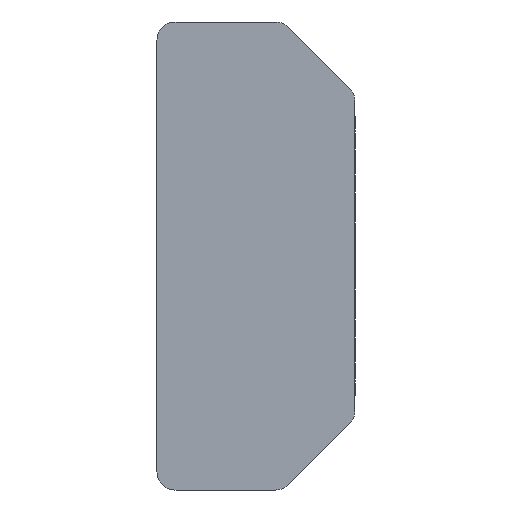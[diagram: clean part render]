
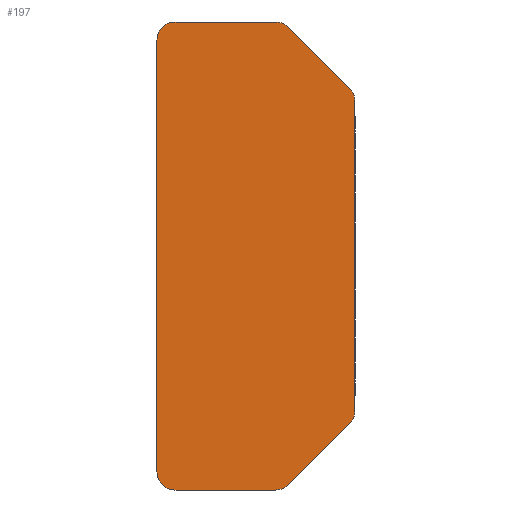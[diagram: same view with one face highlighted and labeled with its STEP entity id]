
A CAD part, left-side view. The second image highlights one B-rep face of the part: STEP entity #197.
In plain terms, the highlighted planar face has unit normal (-1, 0, 0).
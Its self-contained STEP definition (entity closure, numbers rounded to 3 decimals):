
#3 = DIRECTION ( 'NONE',  ( 0., 0., 1. ) ) ;
#14 = CARTESIAN_POINT ( 'NONE',  ( 0., 1.854, -12.854 ) ) ;
#20 = ORIENTED_EDGE ( 'NONE', *, *, #111, .T. ) ;
#24 = CIRCLE ( 'NONE', #54, 0.5 ) ;
#28 = VERTEX_POINT ( 'NONE', #257 ) ;
#37 = CIRCLE ( 'NONE', #534, 0.5 ) ;
#44 = DIRECTION ( 'NONE',  ( 0., 0., -1. ) ) ;
#46 = DIRECTION ( 'NONE',  ( 0., 0., -1. ) ) ;
#47 = VECTOR ( 'NONE', #538, 1000. ) ;
#51 = CARTESIAN_POINT ( 'NONE',  ( 0., 5.5, 0. ) ) ;
#53 = CARTESIAN_POINT ( 'NONE',  ( 0., 2., -13. ) ) ;
#54 = AXIS2_PLACEMENT_3D ( 'NONE', #376, #71, #292 ) ;
#57 = DIRECTION ( 'NONE',  ( 0., -1., 0. ) ) ;
#62 = AXIS2_PLACEMENT_3D ( 'NONE', #442, #404, #46 ) ;
#70 = CARTESIAN_POINT ( 'NONE',  ( 0., 2.207, -0.5 ) ) ;
#71 = DIRECTION ( 'NONE',  ( -1., 0., 0. ) ) ;
#72 = ORIENTED_EDGE ( 'NONE', *, *, #552, .T. ) ;
#88 = DIRECTION ( 'NONE',  ( 0., 0., -1. ) ) ;
#98 = CARTESIAN_POINT ( 'NONE',  ( 0., 0., -10.793 ) ) ;
#100 = VERTEX_POINT ( 'NONE', #429 ) ;
#101 = CARTESIAN_POINT ( 'NONE',  ( 0., 5., -13. ) ) ;
#106 = DIRECTION ( 'NONE',  ( 0., 0., -1. ) ) ;
#110 = VERTEX_POINT ( 'NONE', #340 ) ;
#111 = EDGE_CURVE ( 'NONE', #110, #461, #24, .T. ) ;
#114 = ORIENTED_EDGE ( 'NONE', *, *, #557, .T. ) ;
#128 = FACE_OUTER_BOUND ( 'NONE', #302, .T. ) ;
#131 = LINE ( 'NONE', #528, #132 ) ;
#132 = VECTOR ( 'NONE', #159, 1000. ) ;
#140 = VERTEX_POINT ( 'NONE', #523 ) ;
#142 = ORIENTED_EDGE ( 'NONE', *, *, #213, .T. ) ;
#147 = VERTEX_POINT ( 'NONE', #249 ) ;
#159 = DIRECTION ( 'NONE',  ( 0., 0.707, 0.707 ) ) ;
#175 = CIRCLE ( 'NONE', #62, 0.5 ) ;
#176 = EDGE_CURVE ( 'NONE', #457, #565, #406, .T. ) ;
#186 = DIRECTION ( 'NONE',  ( 0., -1., 0. ) ) ;
#196 = VECTOR ( 'NONE', #186, 1000. ) ;
#197 = ADVANCED_FACE ( 'NONE', ( #128 ), #495, .F. ) ;
#213 = EDGE_CURVE ( 'NONE', #478, #430, #352, .T. ) ;
#216 = CARTESIAN_POINT ( 'NONE',  ( 0., 0.5, -10.793 ) ) ;
#219 = EDGE_CURVE ( 'NONE', #430, #110, #483, .T. ) ;
#225 = CARTESIAN_POINT ( 'NONE',  ( 0., 5.5, -13. ) ) ;
#227 = DIRECTION ( 'NONE',  ( 0., -0.707, 0.707 ) ) ;
#229 = CARTESIAN_POINT ( 'NONE',  ( 0., 5.5, -12.5 ) ) ;
#230 = LINE ( 'NONE', #51, #342 ) ;
#237 = ORIENTED_EDGE ( 'NONE', *, *, #252, .T. ) ;
#241 = EDGE_CURVE ( 'NONE', #536, #28, #175, .T. ) ;
#249 = CARTESIAN_POINT ( 'NONE',  ( 0., 1.854, -0.146 ) ) ;
#252 = EDGE_CURVE ( 'NONE', #461, #147, #131, .T. ) ;
#257 = CARTESIAN_POINT ( 'NONE',  ( 0., 5.5, -0.5 ) ) ;
#267 = LINE ( 'NONE', #53, #572 ) ;
#280 = CARTESIAN_POINT ( 'NONE',  ( 0., 2.207, -12.5 ) ) ;
#286 = CARTESIAN_POINT ( 'NONE',  ( 0., 5., 0. ) ) ;
#292 = DIRECTION ( 'NONE',  ( 0., 0., -1. ) ) ;
#294 = DIRECTION ( 'NONE',  ( -1., 0., 0. ) ) ;
#296 = ORIENTED_EDGE ( 'NONE', *, *, #176, .T. ) ;
#301 = CARTESIAN_POINT ( 'NONE',  ( 0., 5., -12.5 ) ) ;
#302 = EDGE_LOOP ( 'NONE', ( #237, #114, #481, #423, #450, #296, #341, #72, #334, #142, #468, #20 ) ) ;
#313 = DIRECTION ( 'NONE',  ( -1., 0., 0. ) ) ;
#325 = AXIS2_PLACEMENT_3D ( 'NONE', #354, #393, #88 ) ;
#332 = EDGE_CURVE ( 'NONE', #565, #140, #459, .T. ) ;
#334 = ORIENTED_EDGE ( 'NONE', *, *, #455, .T. ) ;
#335 = DIRECTION ( 'NONE',  ( 0., 0., -1. ) ) ;
#340 = CARTESIAN_POINT ( 'NONE',  ( 0., 0., -2.207 ) ) ;
#341 = ORIENTED_EDGE ( 'NONE', *, *, #332, .T. ) ;
#342 = VECTOR ( 'NONE', #3, 1000. ) ;
#352 = CIRCLE ( 'NONE', #458, 0.5 ) ;
#354 = CARTESIAN_POINT ( 'NONE',  ( 0., 5.5, 0. ) ) ;
#355 = VECTOR ( 'NONE', #57, 1000. ) ;
#358 = EDGE_CURVE ( 'NONE', #536, #100, #410, .T. ) ;
#361 = AXIS2_PLACEMENT_3D ( 'NONE', #70, #294, #335 ) ;
#372 = CARTESIAN_POINT ( 'NONE',  ( 0., 5.5, 0. ) ) ;
#376 = CARTESIAN_POINT ( 'NONE',  ( 0., 0.5, -2.207 ) ) ;
#378 = EDGE_CURVE ( 'NONE', #457, #28, #230, .T. ) ;
#393 = DIRECTION ( 'NONE',  ( 1., 0., 0. ) ) ;
#404 = DIRECTION ( 'NONE',  ( -1., 0., 0. ) ) ;
#406 = CIRCLE ( 'NONE', #532, 0.5 ) ;
#410 = LINE ( 'NONE', #372, #355 ) ;
#423 = ORIENTED_EDGE ( 'NONE', *, *, #241, .T. ) ;
#429 = CARTESIAN_POINT ( 'NONE',  ( 0., 2.207, 0. ) ) ;
#430 = VERTEX_POINT ( 'NONE', #98 ) ;
#442 = CARTESIAN_POINT ( 'NONE',  ( 0., 5., -0.5 ) ) ;
#450 = ORIENTED_EDGE ( 'NONE', *, *, #378, .F. ) ;
#452 = CARTESIAN_POINT ( 'NONE',  ( 0., 0., 0. ) ) ;
#455 = EDGE_CURVE ( 'NONE', #519, #478, #267, .T. ) ;
#457 = VERTEX_POINT ( 'NONE', #229 ) ;
#458 = AXIS2_PLACEMENT_3D ( 'NONE', #216, #313, #44 ) ;
#459 = LINE ( 'NONE', #225, #196 ) ;
#461 = VERTEX_POINT ( 'NONE', #501 ) ;
#462 = DIRECTION ( 'NONE',  ( 0., 0., -1. ) ) ;
#468 = ORIENTED_EDGE ( 'NONE', *, *, #219, .T. ) ;
#469 = DIRECTION ( 'NONE',  ( -1., 0., 0. ) ) ;
#478 = VERTEX_POINT ( 'NONE', #504 ) ;
#480 = DIRECTION ( 'NONE',  ( -1., 0., 0. ) ) ;
#481 = ORIENTED_EDGE ( 'NONE', *, *, #358, .F. ) ;
#483 = LINE ( 'NONE', #452, #47 ) ;
#495 = PLANE ( 'NONE',  #325 ) ;
#501 = CARTESIAN_POINT ( 'NONE',  ( 0., 0.146, -1.854 ) ) ;
#504 = CARTESIAN_POINT ( 'NONE',  ( 0., 0.146, -11.146 ) ) ;
#519 = VERTEX_POINT ( 'NONE', #14 ) ;
#523 = CARTESIAN_POINT ( 'NONE',  ( 0., 2.207, -13. ) ) ;
#528 = CARTESIAN_POINT ( 'NONE',  ( 0., 2., 0. ) ) ;
#532 = AXIS2_PLACEMENT_3D ( 'NONE', #301, #480, #106 ) ;
#534 = AXIS2_PLACEMENT_3D ( 'NONE', #280, #469, #462 ) ;
#536 = VERTEX_POINT ( 'NONE', #286 ) ;
#538 = DIRECTION ( 'NONE',  ( 0., 0., 1. ) ) ;
#541 = CIRCLE ( 'NONE', #361, 0.5 ) ;
#552 = EDGE_CURVE ( 'NONE', #140, #519, #37, .T. ) ;
#557 = EDGE_CURVE ( 'NONE', #147, #100, #541, .T. ) ;
#565 = VERTEX_POINT ( 'NONE', #101 ) ;
#572 = VECTOR ( 'NONE', #227, 1000. ) ;
